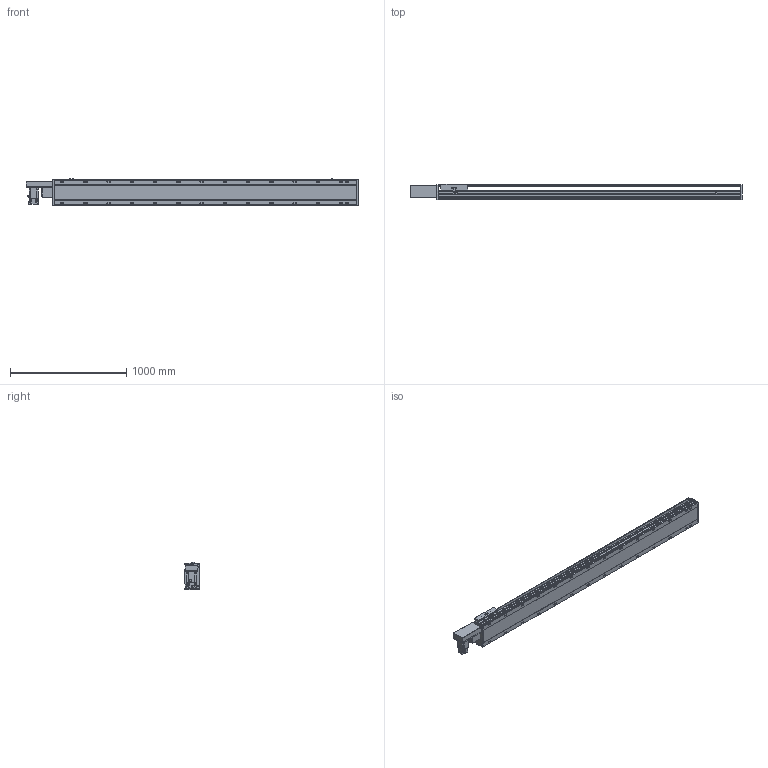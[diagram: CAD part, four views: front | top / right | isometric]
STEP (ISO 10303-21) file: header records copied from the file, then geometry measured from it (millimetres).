
FILE_DESCRIPTION(/* description */ ('STEP AP214'),/* implementation_level */ '2;1');
FILE_NAME(/* name */ 'PBS220-P40-S2250-R-T75-C1-N(0)',/* time_stamp */ '2022-06-11T10:02:45+02:00',/* author */ ('License CC BY-ND 4.0'),/* organization */ ('CADENAS'),/* preprocessor_version */ 'ST-DEVELOPER v18.102',/* originating_system */ 'PARTsolutions',/* authorisation */ ' ');
FILE_SCHEMA (('AUTOMOTIVE_DESIGN {1 0 10303 214 3 1 1}'));
Length unit declared in the file: millimetre
Products named in the file (7): PBS220-P40-S2250-R-T75-C1-N(0); PBS220_sensor; PBS220_plant; PBS220_sliser; T75-p1; PBS220T-R_motors; PBS220-S2250()_body
Assembly tree (8 placements, depth 2):
  PBS220-P40-S2250-R-T75-C1-N(0)
    PBS220_sensor  x3
    PBS220_plant
    PBS220_sliser
    T75-p1
    PBS220T-R_motors
    PBS220-S2250()_body
Bounding box: 2856 x 134 x 238.5 mm (x, y, z)
Volume: 38285909 mm3; surface area: 3534697.6 mm2
Topology: 8 solids, 8 shells, 986 faces, 2564 edges, 1666 vertices
Faces by surface type: plane 622, cylinder 312, cone 52
Full cylindrical faces by diameter (mm): 2.013 x4, 4.5 x14, 4.917 x4, 6 x7, 6.647 x8, 8 x10, 8.376 x28, 8.5 x28, 10 x6, 14 x28, 38 x2, 40 x1, 70 x1
Entity records: 27501 total; most frequent: CARTESIAN_POINT 4888, DIRECTION 4779, ORIENTED_EDGE 4322, EDGE_CURVE 2161, AXIS2_PLACEMENT_3D 1711, VERTEX_POINT 1512, LINE 1357, VECTOR 1357
